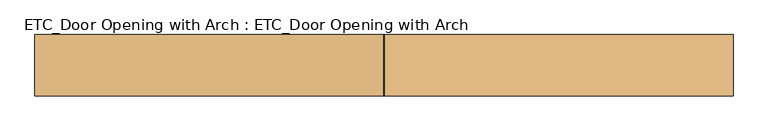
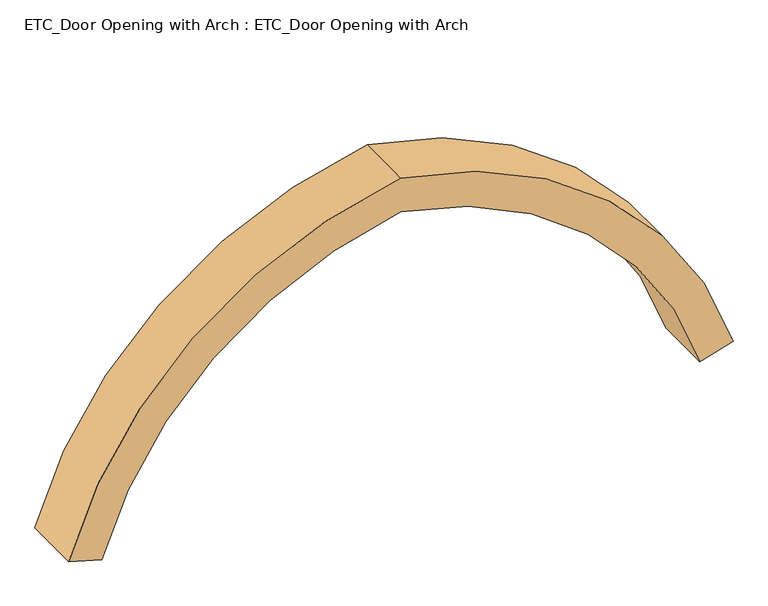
"""IFC4 building model written with IfcOpenShell, lengths in millimetres: door geometry, ETC_Door Opening with Arch : ETC_Door Opening with Arch."""

from ifc_helpers import new_model, si_unit, point, frame, frame_2d, origin, place, context, project, spatial, polyline, circle_curve, trimmed, segment, composite_curve, outline, extrude, source, transform, mapped, element, save


def etc_door_opening_with_arch_etc_door_opening_with_arch_b524fb75(model_context):
    return source(origin(), model_context, "Body", "SweptSolid", [
        extrude(outline(composite_curve([segment(trimmed(circle_curve(frame_2d((494.8347701, -447.5489393)), 2960.0942185), [point((1346.4542186, 2387.3941109))], [point((3420.9, 0.0))], False, "CARTESIAN"), True, "CONTINUOUS"), segment(trimmed(circle_curve(frame_2d((494.8347701, 447.5489393)), 2960.0942185), [point((3420.9, 0.0))], [point((1346.4542186, -2387.3941109))], False, "CARTESIAN"), True, "CONTINUOUS"), segment(polyline([(1346.4542186, -2387.3941109), (1275.1571374, -2147.7752556)]), True, "CONTINUOUS"), segment(trimmed(circle_curve(frame_2d((494.8347701, 447.5489393)), 2710.0942185), [point((1275.1571374, -2147.7752556))], [point((3167.7190961, 0.0))], True, "CARTESIAN"), True, "CONTINUOUS"), segment(trimmed(circle_curve(frame_2d((494.8347701, -447.5489393)), 2710.0942185), [point((3167.7190961, 0.0))], [point((1275.1571374, 2147.7752556))], True, "CARTESIAN"), True, "CONTINUOUS"), segment(polyline([(1275.1571374, 2147.7752556), (1346.4542186, 2387.3941109)]), True, "CONTINUOUS")], self_intersect=False)), frame((0.0, -210.408696, 0.0), z_axis=(0.0, 1.0, 0.0), x_axis=(0.0, 0.0, 1.0)), (0.0, 0.0, 1.0), 420.0),
    ])


if __name__ == "__main__":
    model = new_model("IFC4")
    model_context = context("Model", 3, world=origin())
    ifc_project = project(units=[si_unit("LENGTHUNIT", "METRE", prefix="MILLI")], contexts=[model_context])
    site = spatial("IfcSite", under=ifc_project)
    building = spatial("IfcBuilding", under=site)
    placement = place(None, origin())
    etc_door_opening_with_arch_etc_door_opening_with_arch_shape = etc_door_opening_with_arch_etc_door_opening_with_arch_b524fb75(model_context)
    element("IfcDoor", 1, ObjectType="ETC_Door Opening with Arch : ETC_Door Opening with Arch", at=placement, inside=building, context=model_context, shape_type="MappedRepresentation", body=[
        mapped(etc_door_opening_with_arch_etc_door_opening_with_arch_shape, transform((0.0, 0.0, 0.0), x_axis=(1.0, 0.0, 0.0), y_axis=(0.0, 1.0, 0.0), z_axis=(0.0, 0.0, 1.0))),
    ])
    save(model, "model.ifc")
